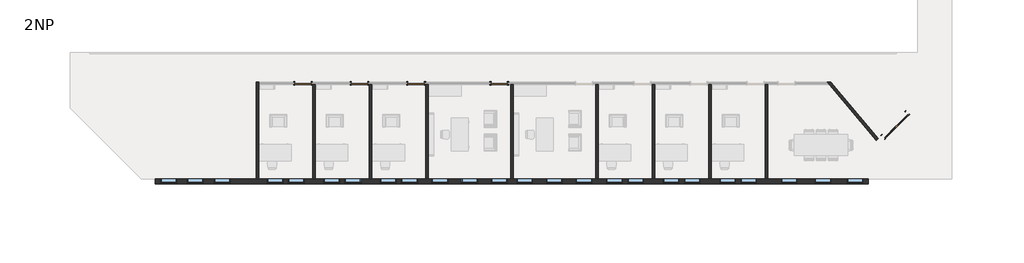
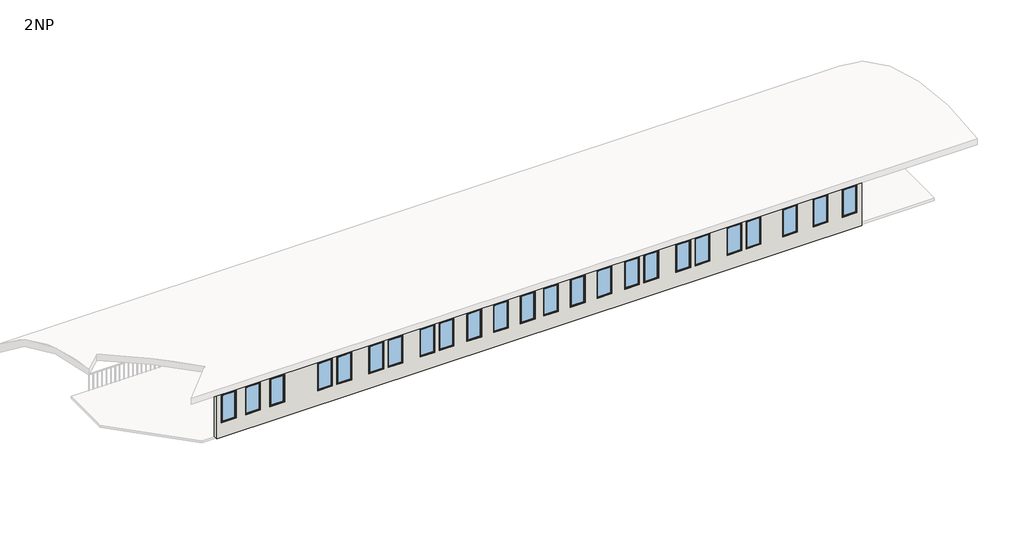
# One storey, part 1 of 2: 24 windows, 11 walls, 5 doors.
"""IFC4 building model written with IfcOpenShell, lengths in millimetres."""

import ifcopenshell
import ifcopenshell.guid

model = None  # the IFC model being written
_history = None  # IfcOwnerHistory: only IFC2X3 demands one
_inside = {}  # id of a spatial element -> (the spatial element, [elements in it])
_under = {}  # id of a project, library or spatial element -> (it, [spatial elements below it])
_declared = {}  # id of a project -> (the project, [libraries it declares])
_typed = {}  # id of a type object -> (the type object, [elements of that type])
_made_of = {}  # id of a material, layer set ... -> (it, [elements and type objects made of it])


def new_model(schema):
    """Start an empty IFC model of exactly this schema.

    Asked for "IFC4X3", IfcOpenShell would pick the latest addendum, in which some entities
    have other attributes; the version numbers below select the first issue.
    IFC2X3 requires an IfcOwnerHistory on every rooted entity: one is made here for all.
    """
    global model, _history
    if schema == "IFC4X3":
        model = ifcopenshell.file(schema_version=(4, 3, 0, 0))
    else:
        model = ifcopenshell.file(schema=schema)
    _inside.clear()
    _under.clear()
    _declared.clear()
    _typed.clear()
    _made_of.clear()
    _history = None
    if model.schema == "IFC2X3":
        org = make("IfcOrganization", Name="unknown")
        user = make(
            "IfcPersonAndOrganization",
            ThePerson=make("IfcPerson", FamilyName="unknown"),
            TheOrganization=org,
        )
        app = make(
            "IfcApplication",
            ApplicationDeveloper=org,
            Version="unknown",
            ApplicationFullName="unknown",
            ApplicationIdentifier="unknown",
        )
        _history = make(
            "IfcOwnerHistory",
            OwningUser=user,
            OwningApplication=app,
            ChangeAction="ADDED",
            CreationDate=0,
        )
    return model


def make(cls, **values):
    """One entity of the class cls with the attributes given. An attribute that is None is left unset."""
    return model.create_entity(
        cls, **{name: value for name, value in values.items() if value is not None}
    )


def rooted(cls, **values):
    """An entity with a GlobalId (a new one), such as an element, a storey or a relation."""
    return make(cls, GlobalId=ifcopenshell.guid.new(), OwnerHistory=_history, **values)


def si_unit(unit_type, name, prefix=None):
    """IfcSIUnit, for example si_unit("LENGTHUNIT", "METRE", prefix="MILLI")."""
    return make("IfcSIUnit", UnitType=unit_type, Prefix=prefix, Name=name)


def assignment(units):
    """IfcUnitAssignment: the units of a project."""
    return None if units is None else make("IfcUnitAssignment", Units=units)


def point(xyz):
    """IfcCartesianPoint."""
    return None if xyz is None else make("IfcCartesianPoint", Coordinates=xyz)


def direction(xyz):
    """IfcDirection."""
    return None if xyz is None else make("IfcDirection", DirectionRatios=xyz)


def frame(location, z_axis=None, x_axis=None):
    """IfcAxis2Placement3D, a coordinate frame: its origin and axes. An axis left out is left unset."""
    return make(
        "IfcAxis2Placement3D",
        Location=point(location),
        Axis=direction(z_axis),
        RefDirection=direction(x_axis),
    )


def origin():
    """The frame at (0, 0, 0) with its axes left unset."""
    return frame((0.0, 0.0, 0.0))


def origin_with_axes():
    """The frame at (0, 0, 0) with the z axis (0, 0, 1) and the x axis (1, 0, 0) written out."""
    return frame((0.0, 0.0, 0.0), z_axis=(0.0, 0.0, 1.0), x_axis=(1.0, 0.0, 0.0))


def place(relative_to, where):
    """IfcLocalPlacement: puts the frame where relative to a parent placement (None: the world)."""
    return make(
        "IfcLocalPlacement", PlacementRelTo=relative_to, RelativePlacement=where
    )


def context(
    kind, dimensions, precision=None, world=None, true_north=None, identifier=None
):
    """IfcGeometricRepresentationContext, for example the 3D "Model" context."""
    return make(
        "IfcGeometricRepresentationContext",
        ContextIdentifier=identifier,
        ContextType=kind,
        CoordinateSpaceDimension=dimensions,
        Precision=precision,
        WorldCoordinateSystem=world,
        TrueNorth=true_north,
    )


def project(units=None, contexts=None):
    """IfcProject with its units and contexts."""
    return rooted(
        "IfcProject",
        Name="project",
        RepresentationContexts=contexts,
        UnitsInContext=assignment(units),
    )


def spatial(cls, under=None, at=None, **own):
    """A site, building, storey or space (cls), placed at a placement, below another one or the project."""
    s = rooted(cls, ObjectPlacement=at, **own)
    if under is not None:
        _under.setdefault(under.id(), (under, []))[1].append(s)
    return s


def polyline(points):
    """IfcPolyline through the points."""
    return make("IfcPolyline", Points=[point(p) for p in points])


def outline(outer, holes=None, kind="AREA"):
    """IfcArbitraryClosedProfileDef: a profile drawn as a closed curve; with holes, ...WithVoids."""
    if holes is None:
        return make("IfcArbitraryClosedProfileDef", ProfileType=kind, OuterCurve=outer)
    return make(
        "IfcArbitraryProfileDefWithVoids",
        ProfileType=kind,
        OuterCurve=outer,
        InnerCurves=holes,
    )


def extrude(swept, where, along, depth):
    """IfcExtrudedAreaSolid: the profile swept, set in the frame where, extruded along a direction by depth."""
    return make(
        "IfcExtrudedAreaSolid",
        SweptArea=swept,
        Position=where,
        ExtrudedDirection=direction(along),
        Depth=depth,
    )


def faces_of(points, faces, orient=None, outer=None):
    """IfcFace entities. A face is a list of loops; a loop is a list of indices into points, from 0.

    orient and outer hold one flag for each loop. By default every Orientation is true, the
    first loop of a face is its IfcFaceOuterBound and the others are IfcFaceBound.
    """
    made = []
    for i, loops in enumerate(faces):
        bounds = []
        for j, loop in enumerate(loops):
            is_outer = j == 0 if outer is None else outer[i][j]
            bounds.append(
                make(
                    "IfcFaceOuterBound" if is_outer else "IfcFaceBound",
                    Bound=make("IfcPolyLoop", Polygon=[points[k] for k in loop]),
                    Orientation=True if orient is None else orient[i][j],
                )
            )
        made.append(make("IfcFace", Bounds=bounds))
    return made


def faceted_brep(points, faces, orient=None, outer=None, voids=None):
    """IfcFacetedBrep: a solid bounded by flat faces; with voids (closed shells), ...WithVoids."""
    shared = [point(p) for p in points]
    hull = make("IfcClosedShell", CfsFaces=faces_of(shared, faces, orient, outer))
    if voids is None:
        return make("IfcFacetedBrep", Outer=hull)
    return make(
        "IfcFacetedBrepWithVoids",
        Outer=hull,
        Voids=[
            make(cls, CfsFaces=faces_of(shared, fs, o, b)) for cls, fs, o, b in voids
        ],
    )


def shape(context_of_items, identifier, shape_type, items):
    """IfcShapeRepresentation: the items that make up one representation, for example the "Body"."""
    return make(
        "IfcShapeRepresentation",
        ContextOfItems=context_of_items,
        RepresentationIdentifier=identifier,
        RepresentationType=shape_type,
        Items=items,
    )


def source(mapping_origin, context_of_items, identifier, shape_type, items):
    """IfcRepresentationMap: a shape defined once, which mapped items show again and again."""
    return make(
        "IfcRepresentationMap",
        MappingOrigin=mapping_origin,
        MappedRepresentation=shape(context_of_items, identifier, shape_type, items),
    )


def transform(
    local_origin,
    x_axis=None,
    y_axis=None,
    z_axis=None,
    scale=None,
    scale2=None,
    scale3=None,
    uniform=True,
):
    """IfcCartesianTransformationOperator3D, or its non-uniform kind. x_axis, y_axis, z_axis: its Axis1, 2, 3."""
    if uniform:
        return make(
            "IfcCartesianTransformationOperator3D",
            Axis1=direction(x_axis),
            Axis2=direction(y_axis),
            LocalOrigin=point(local_origin),
            Scale=scale,
            Axis3=direction(z_axis),
        )
    return make(
        "IfcCartesianTransformationOperator3DnonUniform",
        Axis1=direction(x_axis),
        Axis2=direction(y_axis),
        LocalOrigin=point(local_origin),
        Scale=scale,
        Axis3=direction(z_axis),
        Scale2=scale2,
        Scale3=scale3,
    )


def mapped(mapping_source, mapping_target):
    """IfcMappedItem: shows the shape of a source again, moved by a transform."""
    return make(
        "IfcMappedItem", MappingSource=mapping_source, MappingTarget=mapping_target
    )


def made_of(thing, what):
    """Note that an element or type object is made of a material, layer set ...; save() writes the relation."""
    if what is not None:
        _made_of.setdefault(what.id(), (what, []))[1].append(thing)
    return thing


def element(
    cls,
    number,
    at=None,
    inside=None,
    cuts=None,
    type_object=None,
    material=None,
    context=None,
    identifier="Body",
    shape_type=None,
    held_by="IfcProductDefinitionShape",
    body=None,
    shapes=None,
    **own,
):
    """One element of the class cls, such as IfcWall. Its Tag is "e" and its number.

    at: its placement. inside: the storey or other place that contains it. cuts: it is an
    opening in that element (IfcRelVoidsElement). A single representation is given by context,
    identifier, shape_type and body (its items); several are given by shapes. held_by: the class
    of the entity that holds the representations. save() writes the other relations.
    """
    e = rooted(cls, Tag="e%d" % number, ObjectPlacement=at, **own)
    if body is not None:
        shapes = [shape(context, identifier, shape_type, body)]
    if shapes is not None:
        e.Representation = make(held_by, Representations=shapes)
    if inside is not None:
        _inside.setdefault(inside.id(), (inside, []))[1].append(e)
    if cuts is not None:
        rooted(
            "IfcRelVoidsElement", RelatingBuildingElement=cuts, RelatedOpeningElement=e
        )
    if type_object is not None:
        _typed.setdefault(type_object.id(), (type_object, []))[1].append(e)
    return made_of(e, material)


def aggregate(whole, parts):
    """IfcRelAggregates: a whole, such as a stair, and the parts it consists of."""
    return rooted("IfcRelAggregates", RelatingObject=whole, RelatedObjects=parts)


def save(model, path):
    """Write the relations noted so far, then the file.

    IfcRelAggregates (storeys below a building ...), IfcRelContainedInSpatialStructure (elements
    in a storey), IfcRelDefinesByType, IfcRelAssociatesMaterial and IfcRelDeclares: one each for
    every whole, place, type object, material and project.
    """
    for whole, parts in _under.values():
        aggregate(whole, parts)
    for where, things in _inside.values():
        rooted(
            "IfcRelContainedInSpatialStructure",
            RelatedElements=things,
            RelatingStructure=where,
        )
    for kind, things in _typed.values():
        rooted("IfcRelDefinesByType", RelatedObjects=things, RelatingType=kind)
    for what, things in _made_of.values():
        rooted("IfcRelAssociatesMaterial", RelatedObjects=things, RelatingMaterial=what)
    for by, libraries in _declared.values():
        rooted("IfcRelDeclares", RelatingContext=by, RelatedDefinitions=libraries)
    model.write(path)


def m_double_glass_1_1830_x_2134mm_ce9160c6(model_context):
    return source(origin(), model_context, "Body", "SweptSolid", [
        extrude(outline(polyline([(0.0, 991.0), (2210.0, 991.0), (2210.0, -991.0), (0.0, -991.0), (0.0, -915.0), (2134.0, -915.0), (2134.0, 915.0), (0.0, 915.0), (0.0, 991.0)])), frame((0.0, -156.11875, 0.0), z_axis=(0.0, 1.0, 0.0), x_axis=(0.0, 0.0, 1.0)), (0.0, 0.0, 1.0), 25.0),
        extrude(outline(polyline([(2134.0, 915.0), (0.0, 915.0), (0.0, 991.0), (2210.0, 991.0), (2210.0, -991.0), (0.0, -991.0), (0.0, -915.0), (2134.0, -915.0), (2134.0, 915.0)])), frame((0.0, 135.88125, 0.0), z_axis=(0.0, 1.0, 0.0), x_axis=(0.0, 0.0, 1.0)), (0.0, 0.0, 1.0), 25.0),
        extrude(outline(polyline([(813.4, 110.48125), (101.6, 110.48125), (101.6, 117.625), (813.4, 117.625), (813.4, 110.48125)])), frame((0.0, 0.0, 102.0), z_axis=(0.0, 0.0, 1.0), x_axis=(1.0, 0.0, 0.0)), (0.0, 0.0, 1.0), 1930.0),
        extrude(outline(polyline([(-101.6, 110.48125), (-813.4, 110.48125), (-813.4, 117.625), (-101.6, 117.625), (-101.6, 110.48125)])), frame((0.0, 0.0, 102.0), z_axis=(0.0, 0.0, 1.0), x_axis=(1.0, 0.0, 0.0)), (0.0, 0.0, 1.0), 1930.0),
        extrude(outline(polyline([(2134.0, 915.0), (2134.0, -915.0), (0.0, -915.0), (0.0, 915.0), (2134.0, 915.0)]), holes=[polyline([(2032.0, -101.6), (102.0, -101.6), (102.0, -813.4), (2032.0, -813.4), (2032.0, -101.6)]), polyline([(2032.0, 813.4), (102.0, 813.4), (102.0, 101.6), (2032.0, 101.6), (2032.0, 813.4)])]), frame((0.0, 84.88125, 0.0), z_axis=(0.0, 1.0, 0.0), x_axis=(0.0, 0.0, 1.0)), (0.0, 0.0, 1.0), 51.0),
    ])


def m_single_flush_0915_x_2032mm_1012e85d(model_context):
    return source(origin(), model_context, "Body", "SweptSolid", [
        extrude(outline(polyline([(2108.0, -533.5), (0.0, -533.5), (0.0, -457.5), (2032.0, -457.5), (2032.0, 457.5), (0.0, 457.5), (0.0, 533.5), (2108.0, 533.5), (2108.0, -533.5)])), frame((0.0, -94.25, 0.0), z_axis=(0.0, 1.0, 0.0), x_axis=(0.0, 0.0, 1.0)), (0.0, 0.0, 1.0), 25.0),
        extrude(outline(polyline([(2108.0, 533.5), (2108.0, -533.5), (0.0, -533.5), (0.0, -457.5), (2032.0, -457.5), (2032.0, 457.5), (0.0, 457.5), (0.0, 533.5), (2108.0, 533.5)])), frame((0.0, 69.25, 0.0), z_axis=(0.0, 1.0, 0.0), x_axis=(0.0, 0.0, 1.0)), (0.0, 0.0, 1.0), 25.0),
        extrude(outline(polyline([(457.5, -18.25), (457.5, -69.25), (-457.5, -69.25), (-457.5, -18.25), (457.5, -18.25)])), origin_with_axes(), (0.0, 0.0, 1.0), 2032.0),
    ])


def m_fixed_0915_x_1830mm_7ee91fd3(model_context):
    return source(origin(), model_context, "Body", "SweptSolid", [
        extrude(outline(polyline([(-394.5, 111.5), (394.5, 111.5), (394.5, 99.5), (-394.5, 99.5), (-394.5, 111.5)])), frame((0.0, 0.0, 368.0), z_axis=(0.0, 0.0, 1.0), x_axis=(1.0, 0.0, 0.0)), (0.0, 0.0, 1.0), 1704.0),
        extrude(outline(polyline([(2116.0, -438.5), (324.0, -438.5), (324.0, 438.5), (2116.0, 438.5), (2116.0, -438.5)]), holes=[polyline([(2072.0, -394.5), (2072.0, 394.5), (368.0, 394.5), (368.0, -394.5), (2072.0, -394.5)])]), frame((0.0, 83.5, 0.0), z_axis=(0.0, 1.0, 0.0), x_axis=(0.0, 0.0, 1.0)), (0.0, 0.0, 1.0), 44.0),
        extrude(outline(polyline([(2135.0, -457.5), (305.0, -457.5), (305.0, 457.5), (2135.0, 457.5), (2135.0, -457.5)]), holes=[polyline([(2116.0, -438.5), (2116.0, 438.5), (324.0, 438.5), (324.0, -438.5), (2116.0, -438.5)])]), frame((0.0, 83.5, 0.0), z_axis=(0.0, 1.0, 0.0), x_axis=(0.0, 0.0, 1.0)), (0.0, 0.0, 1.0), 63.0),
        extrude(outline(polyline([(2135.0, -457.5), (305.0, -457.5), (305.0, 457.5), (2135.0, 457.5), (2135.0, -457.5)]), holes=[polyline([(2103.0, -425.5), (2103.0, 425.5), (337.0, 425.5), (337.0, -425.5), (2103.0, -425.5)])]), frame((0.0, -120.5, 0.0), z_axis=(0.0, 1.0, 0.0), x_axis=(0.0, 0.0, 1.0)), (0.0, 0.0, 1.0), 204.0),
    ])


model = new_model("IFC4")

# Units and contexts
model_context = context("Model", 3, world=origin())
ifc_project = project(units=[si_unit("LENGTHUNIT", "METRE", prefix="MILLI")], contexts=[model_context])

# Site, building, storey
site = spatial("IfcSite", under=ifc_project)
building = spatial("IfcBuilding", under=site)
storey = spatial("IfcBuildingStorey", under=building, Name="2NP", Elevation=4000.0)

# Doors
placement = place(None, origin())
m_double_glass_1_1830_x_2134mm_shape = m_double_glass_1_1830_x_2134mm_ce9160c6(model_context)
element("IfcDoor", 1, ObjectType="M_Double-Glass 1 : 1830 x 2134mm", at=placement, inside=storey, context=model_context, shape_type="MappedRepresentation", body=[
    mapped(m_double_glass_1_1830_x_2134mm_shape, transform((35269.5413404, -1561.4077171, 4000.0), x_axis=(-0.7071067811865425, -0.7071067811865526, 0.0), y_axis=(0.7071067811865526, -0.7071067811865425, 0.0), z_axis=(0.0, 0.0, 1.0))),
])
m_single_flush_0915_x_2032mm_shape = m_single_flush_0915_x_2032mm_1012e85d(model_context)
element("IfcDoor", 2, ObjectType="M_Single-Flush : 0915 x 2032mm", at=placement, inside=storey, context=model_context, shape_type="MappedRepresentation", body=[
    mapped(m_single_flush_0915_x_2032mm_shape, transform((1762.4255273, 791.5551306, 4000.0), x_axis=(1.0, 0.0, 0.0), y_axis=(0.0, 1.0, 0.0), z_axis=(0.0, 0.0, 1.0))),
])
element("IfcDoor", 3, ObjectType="M_Single-Flush : 0915 x 2032mm", at=placement, inside=storey, context=model_context, shape_type="MappedRepresentation", body=[
    mapped(m_single_flush_0915_x_2032mm_shape, transform((4962.4255273, 791.5551306, 4000.0), x_axis=(1.0, 0.0, 0.0), y_axis=(0.0, 1.0, 0.0), z_axis=(0.0, 0.0, 1.0))),
])
element("IfcDoor", 4, ObjectType="M_Single-Flush : 0915 x 2032mm", at=placement, inside=storey, context=model_context, shape_type="MappedRepresentation", body=[
    mapped(m_single_flush_0915_x_2032mm_shape, transform((8162.4255273, 791.5551306, 4000.0), x_axis=(1.0, 0.0, 0.0), y_axis=(0.0, 1.0, 0.0), z_axis=(0.0, 0.0, 1.0))),
])
element("IfcDoor", 5, ObjectType="M_Single-Flush : 0915 x 2032mm", at=placement, inside=storey, context=model_context, shape_type="MappedRepresentation", body=[
    mapped(m_single_flush_0915_x_2032mm_shape, transform((12862.4255273, 791.5551306, 4000.0), x_axis=(1.0, 0.0, 0.0), y_axis=(0.0, 1.0, 0.0), z_axis=(0.0, 0.0, 1.0))),
])

# Walls
element("IfcWall", 6, ObjectType="Exterior - EIFS on Mtl. Stud", at=placement, inside=storey, context=model_context, shape_type="Brep", body=[
    faceted_brep([(33755.6755273, -4624.9448694, 4000.0), (28058.4255273, -4624.9448694, 4000.0), (27919.9255273, -4624.9448694, 4000.0), (24858.4255273, -4624.9448694, 4000.0), (24719.9255273, -4624.9448694, 4000.0), (21658.4255273, -4624.9448694, 4000.0), (21519.9255273, -4624.9448694, 4000.0), (18458.4255273, -4624.9448694, 4000.0), (18319.9255273, -4624.9448694, 4000.0), (13658.4255273, -4624.9448694, 4000.0), (13519.9255273, -4624.9448694, 4000.0), (8858.4255273, -4624.9448694, 4000.0), (8719.9255273, -4624.9448694, 4000.0), (5658.4255273, -4624.9448694, 4000.0), (5519.9255273, -4624.9448694, 4000.0), (2458.4255273, -4624.9448694, 4000.0), (2319.9255273, -4624.9448694, 4000.0), (-741.5744727, -4624.9448694, 4000.0), (-880.0744727, -4624.9448694, 4000.0), (-6587.8076313, -4624.9448694, 4000.0), (-6587.8076313, -4624.9448694, 8000.0), (33755.6755273, -4624.9448694, 8000.0), (33455.6755273, -4624.9448694, 4970.0), (33455.6755273, -4624.9448694, 6800.0), (32540.6755273, -4624.9448694, 6800.0), (32540.6755273, -4624.9448694, 4970.0), (31640.6755273, -4624.9448694, 4970.0), (31640.6755273, -4624.9448694, 6800.0), (30725.6755273, -4624.9448694, 6800.0), (30725.6755273, -4624.9448694, 4970.0), (29725.6755273, -4624.9448694, 4970.0), (29725.6755273, -4624.9448694, 6800.0), (28810.6755273, -4624.9448694, 6800.0), (28810.6755273, -4624.9448694, 4970.0), (-5380.0744727, -4624.9448694, 4970.0), (-5380.0744727, -4624.9448694, 6800.0), (-6295.0744727, -4624.9448694, 6800.0), (-6295.0744727, -4624.9448694, 4970.0), (-3865.0744727, -4624.9448694, 4970.0), (-3865.0744727, -4624.9448694, 6800.0), (-4780.0744727, -4624.9448694, 6800.0), (-4780.0744727, -4624.9448694, 4970.0), (-2350.0744727, -4624.9448694, 4970.0), (-2350.0744727, -4624.9448694, 6800.0), (-3265.0744727, -4624.9448694, 6800.0), (-3265.0744727, -4624.9448694, 4970.0), (646.6755273, -4624.9448694, 4970.0), (646.6755273, -4624.9448694, 6800.0), (-268.3244727, -4624.9448694, 6800.0), (-268.3244727, -4624.9448694, 4970.0), (1846.6755273, -4624.9448694, 4970.0), (1846.6755273, -4624.9448694, 6800.0), (931.6755273, -4624.9448694, 6800.0), (931.6755273, -4624.9448694, 4970.0), (9973.4255273, -4624.9448694, 4970.0), (9973.4255273, -4624.9448694, 6800.0), (9058.4255273, -4624.9448694, 6800.0), (9058.4255273, -4624.9448694, 4970.0), (13319.9255273, -4624.9448694, 4970.0), (13319.9255273, -4624.9448694, 6800.0), (12404.9255273, -4624.9448694, 6800.0), (12404.9255273, -4624.9448694, 4970.0), (11646.4255273, -4624.9448694, 4970.0), (11646.4255273, -4624.9448694, 6800.0), (10731.4255273, -4624.9448694, 6800.0), (10731.4255273, -4624.9448694, 4970.0), (14773.4255273, -4624.9448694, 4970.0), (14773.4255273, -4624.9448694, 6800.0), (13858.4255273, -4624.9448694, 6800.0), (13858.4255273, -4624.9448694, 4970.0), (18119.9255273, -4624.9448694, 4970.0), (18119.9255273, -4624.9448694, 6800.0), (17204.9255273, -4624.9448694, 6800.0), (17204.9255273, -4624.9448694, 4970.0), (16446.4255273, -4624.9448694, 4970.0), (16446.4255273, -4624.9448694, 6800.0), (15531.4255273, -4624.9448694, 6800.0), (15531.4255273, -4624.9448694, 4970.0), (3846.6755273, -4624.9448694, 4970.0), (3846.6755273, -4624.9448694, 6800.0), (2931.6755273, -4624.9448694, 6800.0), (2931.6755273, -4624.9448694, 4970.0), (5046.6755273, -4624.9448694, 4970.0), (5046.6755273, -4624.9448694, 6800.0), (4131.6755273, -4624.9448694, 6800.0), (4131.6755273, -4624.9448694, 4970.0), (7046.6755273, -4624.9448694, 4970.0), (7046.6755273, -4624.9448694, 6800.0), (6131.6755273, -4624.9448694, 6800.0), (6131.6755273, -4624.9448694, 4970.0), (8246.6755273, -4624.9448694, 4970.0), (8246.6755273, -4624.9448694, 6800.0), (7331.6755273, -4624.9448694, 6800.0), (7331.6755273, -4624.9448694, 4970.0), (19846.6755273, -4624.9448694, 4970.0), (19846.6755273, -4624.9448694, 6800.0), (18931.6755273, -4624.9448694, 6800.0), (18931.6755273, -4624.9448694, 4970.0), (21046.6755273, -4624.9448694, 4970.0), (21046.6755273, -4624.9448694, 6800.0), (20131.6755273, -4624.9448694, 6800.0), (20131.6755273, -4624.9448694, 4970.0), (23046.6755273, -4624.9448694, 4970.0), (23046.6755273, -4624.9448694, 6800.0), (22131.6755273, -4624.9448694, 6800.0), (22131.6755273, -4624.9448694, 4970.0), (24246.6755273, -4624.9448694, 4970.0), (24246.6755273, -4624.9448694, 6800.0), (23331.6755273, -4624.9448694, 6800.0), (23331.6755273, -4624.9448694, 4970.0), (26246.6755273, -4624.9448694, 4970.0), (26246.6755273, -4624.9448694, 6800.0), (25331.6755273, -4624.9448694, 6800.0), (25331.6755273, -4624.9448694, 4970.0), (27446.6755273, -4624.9448694, 4970.0), (27446.6755273, -4624.9448694, 6800.0), (26531.6755273, -4624.9448694, 6800.0), (26531.6755273, -4624.9448694, 4970.0), (-6587.8076313, -4891.9448694, 4000.0), (33755.6755273, -4891.9448694, 4000.0), (33755.6755273, -4891.9448694, 8000.0), (-6587.8076313, -4891.9448694, 8000.0), (33455.6755273, -4891.9448694, 6800.0), (33455.6755273, -4891.9448694, 4970.0), (32540.6755273, -4891.9448694, 4970.0), (32540.6755273, -4891.9448694, 6800.0), (31640.6755273, -4891.9448694, 6800.0), (31640.6755273, -4891.9448694, 4970.0), (30725.6755273, -4891.9448694, 4970.0), (30725.6755273, -4891.9448694, 6800.0), (29725.6755273, -4891.9448694, 6800.0), (29725.6755273, -4891.9448694, 4970.0), (28810.6755273, -4891.9448694, 4970.0), (28810.6755273, -4891.9448694, 6800.0), (-5380.0744727, -4891.9448694, 6800.0), (-5380.0744727, -4891.9448694, 4970.0), (-6295.0744727, -4891.9448694, 4970.0), (-6295.0744727, -4891.9448694, 6800.0), (-3865.0744727, -4891.9448694, 6800.0), (-3865.0744727, -4891.9448694, 4970.0), (-4780.0744727, -4891.9448694, 4970.0), (-4780.0744727, -4891.9448694, 6800.0), (-2350.0744727, -4891.9448694, 6800.0), (-2350.0744727, -4891.9448694, 4970.0), (-3265.0744727, -4891.9448694, 4970.0), (-3265.0744727, -4891.9448694, 6800.0), (646.6755273, -4891.9448694, 6800.0), (646.6755273, -4891.9448694, 4970.0), (-268.3244727, -4891.9448694, 4970.0), (-268.3244727, -4891.9448694, 6800.0), (1846.6755273, -4891.9448694, 6800.0), (1846.6755273, -4891.9448694, 4970.0), (931.6755273, -4891.9448694, 4970.0), (931.6755273, -4891.9448694, 6800.0), (9973.4255273, -4891.9448694, 6800.0), (9973.4255273, -4891.9448694, 4970.0), (9058.4255273, -4891.9448694, 4970.0), (9058.4255273, -4891.9448694, 6800.0), (13319.9255273, -4891.9448694, 6800.0), (13319.9255273, -4891.9448694, 4970.0), (12404.9255273, -4891.9448694, 4970.0), (12404.9255273, -4891.9448694, 6800.0), (11646.4255273, -4891.9448694, 6800.0), (11646.4255273, -4891.9448694, 4970.0), (10731.4255273, -4891.9448694, 4970.0), (10731.4255273, -4891.9448694, 6800.0), (14773.4255273, -4891.9448694, 4970.0), (13858.4255273, -4891.9448694, 4970.0), (13858.4255273, -4891.9448694, 6800.0), (14773.4255273, -4891.9448694, 6800.0), (18119.9255273, -4891.9448694, 4970.0), (17204.9255273, -4891.9448694, 4970.0), (17204.9255273, -4891.9448694, 6800.0), (18119.9255273, -4891.9448694, 6800.0), (16446.4255273, -4891.9448694, 4970.0), (15531.4255273, -4891.9448694, 4970.0), (15531.4255273, -4891.9448694, 6800.0), (16446.4255273, -4891.9448694, 6800.0), (3846.6755273, -4891.9448694, 4970.0), (2931.6755273, -4891.9448694, 4970.0), (2931.6755273, -4891.9448694, 6800.0), (3846.6755273, -4891.9448694, 6800.0), (5046.6755273, -4891.9448694, 4970.0), (4131.6755273, -4891.9448694, 4970.0), (4131.6755273, -4891.9448694, 6800.0), (5046.6755273, -4891.9448694, 6800.0), (7046.6755273, -4891.9448694, 4970.0), (6131.6755273, -4891.9448694, 4970.0), (6131.6755273, -4891.9448694, 6800.0), (7046.6755273, -4891.9448694, 6800.0), (8246.6755273, -4891.9448694, 4970.0), (7331.6755273, -4891.9448694, 4970.0), (7331.6755273, -4891.9448694, 6800.0), (8246.6755273, -4891.9448694, 6800.0), (19846.6755273, -4891.9448694, 4970.0), (18931.6755273, -4891.9448694, 4970.0), (18931.6755273, -4891.9448694, 6800.0), (19846.6755273, -4891.9448694, 6800.0), (21046.6755273, -4891.9448694, 4970.0), (20131.6755273, -4891.9448694, 4970.0), (20131.6755273, -4891.9448694, 6800.0), (21046.6755273, -4891.9448694, 6800.0), (23046.6755273, -4891.9448694, 4970.0), (22131.6755273, -4891.9448694, 4970.0), (22131.6755273, -4891.9448694, 6800.0), (23046.6755273, -4891.9448694, 6800.0), (24246.6755273, -4891.9448694, 4970.0), (23331.6755273, -4891.9448694, 4970.0), (23331.6755273, -4891.9448694, 6800.0), (24246.6755273, -4891.9448694, 6800.0), (26246.6755273, -4891.9448694, 4970.0), (25331.6755273, -4891.9448694, 4970.0), (25331.6755273, -4891.9448694, 6800.0), (26246.6755273, -4891.9448694, 6800.0), (27446.6755273, -4891.9448694, 4970.0), (26531.6755273, -4891.9448694, 4970.0), (26531.6755273, -4891.9448694, 6800.0), (27446.6755273, -4891.9448694, 6800.0)], [[[0, 1, 2, 3, 4, 5, 6, 7, 8, 9, 10, 11, 12, 13, 14, 15, 16, 17, 18, 19, 20, 21], [22, 23, 24, 25], [26, 27, 28, 29], [30, 31, 32, 33], [34, 35, 36, 37], [38, 39, 40, 41], [42, 43, 44, 45], [46, 47, 48, 49], [50, 51, 52, 53], [54, 55, 56, 57], [58, 59, 60, 61], [62, 63, 64, 65], [66, 67, 68, 69], [70, 71, 72, 73], [74, 75, 76, 77], [78, 79, 80, 81], [82, 83, 84, 85], [86, 87, 88, 89], [90, 91, 92, 93], [94, 95, 96, 97], [98, 99, 100, 101], [102, 103, 104, 105], [106, 107, 108, 109], [110, 111, 112, 113], [114, 115, 116, 117]], [[118, 119, 120, 121], [122, 123, 124, 125], [126, 127, 128, 129], [130, 131, 132, 133], [134, 135, 136, 137], [138, 139, 140, 141], [142, 143, 144, 145], [146, 147, 148, 149], [150, 151, 152, 153], [154, 155, 156, 157], [158, 159, 160, 161], [162, 163, 164, 165], [166, 167, 168, 169], [170, 171, 172, 173], [174, 175, 176, 177], [178, 179, 180, 181], [182, 183, 184, 185], [186, 187, 188, 189], [190, 191, 192, 193], [194, 195, 196, 197], [198, 199, 200, 201], [202, 203, 204, 205], [206, 207, 208, 209], [210, 211, 212, 213], [214, 215, 216, 217]], [[19, 18, 17, 16, 15, 14, 13, 12, 11, 10, 9, 8, 7, 6, 5, 4, 3, 2, 1, 0, 119, 118]], [[20, 19, 118, 121]], [[21, 20, 121, 120]], [[21, 120, 119, 0]], [[23, 22, 123, 122]], [[24, 23, 122, 125]], [[25, 24, 125, 124]], [[22, 25, 124, 123]], [[27, 26, 127, 126]], [[28, 27, 126, 129]], [[29, 28, 129, 128]], [[26, 29, 128, 127]], [[31, 30, 131, 130]], [[32, 31, 130, 133]], [[33, 32, 133, 132]], [[30, 33, 132, 131]], [[34, 135, 134, 35]], [[35, 134, 137, 36]], [[136, 37, 36, 137]], [[135, 34, 37, 136]], [[39, 38, 139, 138]], [[40, 39, 138, 141]], [[41, 40, 141, 140]], [[38, 41, 140, 139]], [[43, 42, 143, 142]], [[44, 43, 142, 145]], [[45, 44, 145, 144]], [[42, 45, 144, 143]], [[47, 46, 147, 146]], [[48, 47, 146, 149]], [[49, 48, 149, 148]], [[46, 49, 148, 147]], [[51, 50, 151, 150]], [[52, 51, 150, 153]], [[53, 52, 153, 152]], [[50, 53, 152, 151]], [[55, 54, 155, 154]], [[56, 55, 154, 157]], [[57, 56, 157, 156]], [[54, 57, 156, 155]], [[59, 58, 159, 158]], [[60, 59, 158, 161]], [[61, 60, 161, 160]], [[58, 61, 160, 159]], [[62, 163, 162, 63]], [[63, 162, 165, 64]], [[64, 165, 164, 65]], [[163, 62, 65, 164]], [[67, 66, 166, 169]], [[68, 67, 169, 168]], [[69, 68, 168, 167]], [[66, 69, 167, 166]], [[71, 70, 170, 173]], [[72, 71, 173, 172]], [[73, 72, 172, 171]], [[70, 73, 171, 170]], [[75, 74, 174, 177]], [[76, 75, 177, 176]], [[77, 76, 176, 175]], [[74, 77, 175, 174]], [[79, 78, 178, 181]], [[80, 79, 181, 180]], [[81, 80, 180, 179]], [[78, 81, 179, 178]], [[83, 82, 182, 185]], [[84, 83, 185, 184]], [[85, 84, 184, 183]], [[82, 85, 183, 182]], [[87, 86, 186, 189]], [[88, 87, 189, 188]], [[89, 88, 188, 187]], [[86, 89, 187, 186]], [[91, 90, 190, 193]], [[92, 91, 193, 192]], [[93, 92, 192, 191]], [[90, 93, 191, 190]], [[95, 94, 194, 197]], [[96, 95, 197, 196]], [[97, 96, 196, 195]], [[94, 97, 195, 194]], [[99, 98, 198, 201]], [[100, 99, 201, 200]], [[101, 100, 200, 199]], [[98, 101, 199, 198]], [[103, 102, 202, 205]], [[104, 103, 205, 204]], [[105, 104, 204, 203]], [[102, 105, 203, 202]], [[107, 106, 206, 209]], [[108, 107, 209, 208]], [[109, 108, 208, 207]], [[106, 109, 207, 206]], [[111, 110, 210, 213]], [[112, 111, 213, 212]], [[113, 112, 212, 211]], [[110, 113, 211, 210]], [[115, 114, 214, 217]], [[116, 115, 217, 216]], [[117, 116, 216, 215]], [[114, 117, 215, 214]]]),
])
element("IfcWall", 7, ObjectType="Interior - 138mm Partition (1-hr)", at=placement, inside=storey, context=model_context, shape_type="Brep", body=[
    faceted_brep([(-741.5744727, -4624.9448694, 4000.0), (-741.5744727, 722.3051306, 4000.0), (-741.5744727, 860.8051306, 4000.0), (-741.5744727, 860.8051306, 7700.0), (-741.5744727, 722.3051306, 7700.0), (-741.5744727, -4624.9448694, 7700.0), (-880.0744727, -4624.9448694, 4000.0), (-880.0744727, -4624.9448694, 7700.0), (-880.0744727, 860.8051306, 7700.0), (-880.0744727, 860.8051306, 4000.0)], [[[0, 1, 2, 3, 4, 5]], [[6, 7, 8, 9]], [[2, 1, 0, 6, 9]], [[5, 4, 3, 8, 7]], [[3, 2, 9, 8]], [[0, 5, 7, 6]]]),
])
element("IfcWall", 8, ObjectType="Interior - 138mm Partition (1-hr)", at=placement, inside=storey, context=model_context, shape_type="SweptSolid", body=[
    extrude(outline(polyline([(28058.4255273, 722.3051306), (28058.4255273, -4624.9448694), (27919.9255273, -4624.9448694), (27919.9255273, 722.3051306), (28058.4255273, 722.3051306)])), frame((0.0, 0.0, 4000.0), z_axis=(0.0, 0.0, 1.0), x_axis=(1.0, 0.0, 0.0)), (0.0, 0.0, 1.0), 3700.0),
])
element("IfcWall", 9, ObjectType="Interior - 138mm Partition (1-hr)", at=placement, inside=storey, context=model_context, shape_type="Brep", body=[
    faceted_brep([(34302.1897841, -2343.3293589, 4000.0), (31613.6017157, 860.8051306, 4000.0), (31613.6017157, 860.8051306, 8000.0), (34302.1897841, -2343.3293589, 8000.0), (34205.6755273, -2443.7758967, 4000.0), (34205.6755273, -2443.7758967, 8000.0), (31432.8028061, 860.8051306, 8000.0), (31432.8028061, 860.8051306, 7700.0), (31432.8028061, 860.8051306, 4000.0), (31549.018105, 722.3051306, 4000.0), (34205.6755273, -2439.8436157, 4000.0), (34205.6755273, -2439.8436157, 8000.0)], [[[0, 1, 2, 3]], [[4, 5, 6, 7, 8, 9]], [[1, 0, 10, 4, 9, 8]], [[3, 2, 6, 5, 11]], [[2, 1, 8, 7, 6]], [[0, 3, 11, 10]], [[11, 5, 4, 10]]]),
])
element("IfcWall", 10, ObjectType="Interior - 138mm Partition (1-hr)", at=placement, inside=storey, context=model_context, shape_type="SweptSolid", body=[
    extrude(outline(polyline([(2458.4255273, 722.3051306), (2458.4255273, -4624.9448694), (2319.9255273, -4624.9448694), (2319.9255273, 722.3051306), (2458.4255273, 722.3051306)])), frame((0.0, 0.0, 4000.0), z_axis=(0.0, 0.0, 1.0), x_axis=(1.0, 0.0, 0.0)), (0.0, 0.0, 1.0), 3700.0),
])
element("IfcWall", 11, ObjectType="Interior - 138mm Partition (1-hr)", at=placement, inside=storey, context=model_context, shape_type="SweptSolid", body=[
    extrude(outline(polyline([(5658.4255273, 722.3051306), (5658.4255273, -4624.9448694), (5519.9255273, -4624.9448694), (5519.9255273, 722.3051306), (5658.4255273, 722.3051306)])), frame((0.0, 0.0, 4000.0), z_axis=(0.0, 0.0, 1.0), x_axis=(1.0, 0.0, 0.0)), (0.0, 0.0, 1.0), 3700.0),
])
element("IfcWall", 12, ObjectType="Interior - 138mm Partition (1-hr)", at=placement, inside=storey, context=model_context, shape_type="SweptSolid", body=[
    extrude(outline(polyline([(8858.4255273, 722.3051306), (8858.4255273, -4624.9448694), (8719.9255273, -4624.9448694), (8719.9255273, 722.3051306), (8858.4255273, 722.3051306)])), frame((0.0, 0.0, 4000.0), z_axis=(0.0, 0.0, 1.0), x_axis=(1.0, 0.0, 0.0)), (0.0, 0.0, 1.0), 3700.0),
])
element("IfcWall", 13, ObjectType="Interior - 138mm Partition (1-hr)", at=placement, inside=storey, context=model_context, shape_type="SweptSolid", body=[
    extrude(outline(polyline([(24858.4255273, 722.3051306), (24858.4255273, -4624.9448694), (24719.9255273, -4624.9448694), (24719.9255273, 722.3051306), (24858.4255273, 722.3051306)])), frame((0.0, 0.0, 4000.0), z_axis=(0.0, 0.0, 1.0), x_axis=(1.0, 0.0, 0.0)), (0.0, 0.0, 1.0), 3700.0),
])
element("IfcWall", 14, ObjectType="Interior - 138mm Partition (1-hr)", at=placement, inside=storey, context=model_context, shape_type="SweptSolid", body=[
    extrude(outline(polyline([(13658.4255273, 722.3051306), (13658.4255273, -4624.9448694), (13519.9255273, -4624.9448694), (13519.9255273, 722.3051306), (13658.4255273, 722.3051306)])), frame((0.0, 0.0, 4000.0), z_axis=(0.0, 0.0, 1.0), x_axis=(1.0, 0.0, 0.0)), (0.0, 0.0, 1.0), 3700.0),
])
element("IfcWall", 15, ObjectType="Interior - 138mm Partition (1-hr)", at=placement, inside=storey, context=model_context, shape_type="SweptSolid", body=[
    extrude(outline(polyline([(21658.4255273, 722.3051306), (21658.4255273, -4624.9448694), (21519.9255273, -4624.9448694), (21519.9255273, 722.3051306), (21658.4255273, 722.3051306)])), frame((0.0, 0.0, 4000.0), z_axis=(0.0, 0.0, 1.0), x_axis=(1.0, 0.0, 0.0)), (0.0, 0.0, 1.0), 3700.0),
])
element("IfcWall", 16, ObjectType="Interior - 138mm Partition (1-hr)", at=placement, inside=storey, context=model_context, shape_type="SweptSolid", body=[
    extrude(outline(polyline([(18458.4255273, 722.3051306), (18458.4255273, -4624.9448694), (18319.9255273, -4624.9448694), (18319.9255273, 722.3051306), (18458.4255273, 722.3051306)])), frame((0.0, 0.0, 4000.0), z_axis=(0.0, 0.0, 1.0), x_axis=(1.0, 0.0, 0.0)), (0.0, 0.0, 1.0), 3700.0),
])

# Windows
m_fixed_0915_x_1830mm_shape = m_fixed_0915_x_1830mm_7ee91fd3(model_context)
element("IfcWindow", 17, ObjectType="M_Fixed : 0915 x 1830mm", at=placement, inside=storey, context=model_context, shape_type="MappedRepresentation", body=[
    mapped(m_fixed_0915_x_1830mm_shape, transform((32998.1755273, -4745.4448694, 4665.0), x_axis=(-1.0, 0.0, 0.0), y_axis=(0.0, -1.0, 0.0), z_axis=(0.0, 0.0, 1.0))),
])
element("IfcWindow", 18, ObjectType="M_Fixed : 0915 x 1830mm", at=placement, inside=storey, context=model_context, shape_type="MappedRepresentation", body=[
    mapped(m_fixed_0915_x_1830mm_shape, transform((31183.1755273, -4745.4448694, 4665.0), x_axis=(-1.0, 0.0, 0.0), y_axis=(0.0, -1.0, 0.0), z_axis=(0.0, 0.0, 1.0))),
])
element("IfcWindow", 19, ObjectType="M_Fixed : 0915 x 1830mm", at=placement, inside=storey, context=model_context, shape_type="MappedRepresentation", body=[
    mapped(m_fixed_0915_x_1830mm_shape, transform((29268.1755273, -4745.4448694, 4665.0), x_axis=(-1.0, 0.0, 0.0), y_axis=(0.0, -1.0, 0.0), z_axis=(0.0, 0.0, 1.0))),
])
element("IfcWindow", 20, ObjectType="M_Fixed : 0915 x 1830mm", at=placement, inside=storey, context=model_context, shape_type="MappedRepresentation", body=[
    mapped(m_fixed_0915_x_1830mm_shape, transform((-5837.5744727, -4745.4448694, 4665.0), x_axis=(-1.0, 0.0, 0.0), y_axis=(0.0, -1.0, 0.0), z_axis=(0.0, 0.0, 1.0))),
])
element("IfcWindow", 21, ObjectType="M_Fixed : 0915 x 1830mm", at=placement, inside=storey, context=model_context, shape_type="MappedRepresentation", body=[
    mapped(m_fixed_0915_x_1830mm_shape, transform((-4322.5744727, -4745.4448694, 4665.0), x_axis=(-1.0, 0.0, 0.0), y_axis=(0.0, -1.0, 0.0), z_axis=(0.0, 0.0, 1.0))),
])
element("IfcWindow", 22, ObjectType="M_Fixed : 0915 x 1830mm", at=placement, inside=storey, context=model_context, shape_type="MappedRepresentation", body=[
    mapped(m_fixed_0915_x_1830mm_shape, transform((-2807.5744727, -4745.4448694, 4665.0), x_axis=(-1.0, 0.0, 0.0), y_axis=(0.0, -1.0, 0.0), z_axis=(0.0, 0.0, 1.0))),
])
element("IfcWindow", 23, ObjectType="M_Fixed : 0915 x 1830mm", at=placement, inside=storey, context=model_context, shape_type="MappedRepresentation", body=[
    mapped(m_fixed_0915_x_1830mm_shape, transform((189.1755273, -4745.4448694, 4665.0), x_axis=(-1.0, 0.0, 0.0), y_axis=(0.0, -1.0, 0.0), z_axis=(0.0, 0.0, 1.0))),
])
element("IfcWindow", 24, ObjectType="M_Fixed : 0915 x 1830mm", at=placement, inside=storey, context=model_context, shape_type="MappedRepresentation", body=[
    mapped(m_fixed_0915_x_1830mm_shape, transform((1389.1755273, -4745.4448694, 4665.0), x_axis=(-1.0, 0.0, 0.0), y_axis=(0.0, -1.0, 0.0), z_axis=(0.0, 0.0, 1.0))),
])
element("IfcWindow", 25, ObjectType="M_Fixed : 0915 x 1830mm", at=placement, inside=storey, context=model_context, shape_type="MappedRepresentation", body=[
    mapped(m_fixed_0915_x_1830mm_shape, transform((3389.1755273, -4745.4448694, 4665.0), x_axis=(-1.0, 0.0, 0.0), y_axis=(0.0, -1.0, 0.0), z_axis=(0.0, 0.0, 1.0))),
])
element("IfcWindow", 26, ObjectType="M_Fixed : 0915 x 1830mm", at=placement, inside=storey, context=model_context, shape_type="MappedRepresentation", body=[
    mapped(m_fixed_0915_x_1830mm_shape, transform((4589.1755273, -4745.4448694, 4665.0), x_axis=(-1.0, 0.0, 0.0), y_axis=(0.0, -1.0, 0.0), z_axis=(0.0, 0.0, 1.0))),
])
element("IfcWindow", 27, ObjectType="M_Fixed : 0915 x 1830mm", at=placement, inside=storey, context=model_context, shape_type="MappedRepresentation", body=[
    mapped(m_fixed_0915_x_1830mm_shape, transform((6589.1755273, -4745.4448694, 4665.0), x_axis=(-1.0, 0.0, 0.0), y_axis=(0.0, -1.0, 0.0), z_axis=(0.0, 0.0, 1.0))),
])
element("IfcWindow", 28, ObjectType="M_Fixed : 0915 x 1830mm", at=placement, inside=storey, context=model_context, shape_type="MappedRepresentation", body=[
    mapped(m_fixed_0915_x_1830mm_shape, transform((7789.1755273, -4745.4448694, 4665.0), x_axis=(-1.0, 0.0, 0.0), y_axis=(0.0, -1.0, 0.0), z_axis=(0.0, 0.0, 1.0))),
])
element("IfcWindow", 29, ObjectType="M_Fixed : 0915 x 1830mm", at=placement, inside=storey, context=model_context, shape_type="MappedRepresentation", body=[
    mapped(m_fixed_0915_x_1830mm_shape, transform((22589.1755273, -4745.4448694, 4665.0), x_axis=(-1.0, 0.0, 0.0), y_axis=(0.0, -1.0, 0.0), z_axis=(0.0, 0.0, 1.0))),
])
element("IfcWindow", 30, ObjectType="M_Fixed : 0915 x 1830mm", at=placement, inside=storey, context=model_context, shape_type="MappedRepresentation", body=[
    mapped(m_fixed_0915_x_1830mm_shape, transform((23789.1755273, -4745.4448694, 4665.0), x_axis=(-1.0, 0.0, 0.0), y_axis=(0.0, -1.0, 0.0), z_axis=(0.0, 0.0, 1.0))),
])
element("IfcWindow", 31, ObjectType="M_Fixed : 0915 x 1830mm", at=placement, inside=storey, context=model_context, shape_type="MappedRepresentation", body=[
    mapped(m_fixed_0915_x_1830mm_shape, transform((25789.1755273, -4745.4448694, 4665.0), x_axis=(-1.0, 0.0, 0.0), y_axis=(0.0, -1.0, 0.0), z_axis=(0.0, 0.0, 1.0))),
])
element("IfcWindow", 32, ObjectType="M_Fixed : 0915 x 1830mm", at=placement, inside=storey, context=model_context, shape_type="MappedRepresentation", body=[
    mapped(m_fixed_0915_x_1830mm_shape, transform((26989.1755273, -4745.4448694, 4665.0), x_axis=(-1.0, 0.0, 0.0), y_axis=(0.0, -1.0, 0.0), z_axis=(0.0, 0.0, 1.0))),
])
element("IfcWindow", 33, ObjectType="M_Fixed : 0915 x 1830mm", at=placement, inside=storey, context=model_context, shape_type="MappedRepresentation", body=[
    mapped(m_fixed_0915_x_1830mm_shape, transform((9515.9255273, -4745.4448694, 4665.0), x_axis=(-1.0, 0.0, 0.0), y_axis=(0.0, -1.0, 0.0), z_axis=(0.0, 0.0, 1.0))),
])
element("IfcWindow", 34, ObjectType="M_Fixed : 0915 x 1830mm", at=placement, inside=storey, context=model_context, shape_type="MappedRepresentation", body=[
    mapped(m_fixed_0915_x_1830mm_shape, transform((12862.4255273, -4745.4448694, 4665.0), x_axis=(-1.0, 0.0, 0.0), y_axis=(0.0, -1.0, 0.0), z_axis=(0.0, 0.0, 1.0))),
])
element("IfcWindow", 35, ObjectType="M_Fixed : 0915 x 1830mm", at=placement, inside=storey, context=model_context, shape_type="MappedRepresentation", body=[
    mapped(m_fixed_0915_x_1830mm_shape, transform((19389.1755273, -4745.4448694, 4665.0), x_axis=(-1.0, 0.0, 0.0), y_axis=(0.0, -1.0, 0.0), z_axis=(0.0, 0.0, 1.0))),
])
element("IfcWindow", 36, ObjectType="M_Fixed : 0915 x 1830mm", at=placement, inside=storey, context=model_context, shape_type="MappedRepresentation", body=[
    mapped(m_fixed_0915_x_1830mm_shape, transform((20589.1755273, -4745.4448694, 4665.0), x_axis=(-1.0, 0.0, 0.0), y_axis=(0.0, -1.0, 0.0), z_axis=(0.0, 0.0, 1.0))),
])
element("IfcWindow", 37, ObjectType="M_Fixed : 0915 x 1830mm", at=placement, inside=storey, context=model_context, shape_type="MappedRepresentation", body=[
    mapped(m_fixed_0915_x_1830mm_shape, transform((11188.9255273, -4745.4448694, 4665.0), x_axis=(-1.0, 0.0, 0.0), y_axis=(0.0, -1.0, 0.0), z_axis=(0.0, 0.0, 1.0))),
])
element("IfcWindow", 38, ObjectType="M_Fixed : 0915 x 1830mm", at=placement, inside=storey, context=model_context, shape_type="MappedRepresentation", body=[
    mapped(m_fixed_0915_x_1830mm_shape, transform((14315.9255273, -4745.4448694, 4665.0), x_axis=(-1.0, 0.0, 0.0), y_axis=(0.0, -1.0, 0.0), z_axis=(0.0, 0.0, 1.0))),
])
element("IfcWindow", 39, ObjectType="M_Fixed : 0915 x 1830mm", at=placement, inside=storey, context=model_context, shape_type="MappedRepresentation", body=[
    mapped(m_fixed_0915_x_1830mm_shape, transform((17662.4255273, -4745.4448694, 4665.0), x_axis=(-1.0, 0.0, 0.0), y_axis=(0.0, -1.0, 0.0), z_axis=(0.0, 0.0, 1.0))),
])
element("IfcWindow", 40, ObjectType="M_Fixed : 0915 x 1830mm", at=placement, inside=storey, context=model_context, shape_type="MappedRepresentation", body=[
    mapped(m_fixed_0915_x_1830mm_shape, transform((15988.9255273, -4745.4448694, 4665.0), x_axis=(-1.0, 0.0, 0.0), y_axis=(0.0, -1.0, 0.0), z_axis=(0.0, 0.0, 1.0))),
])

save(model, "model.ifc")
